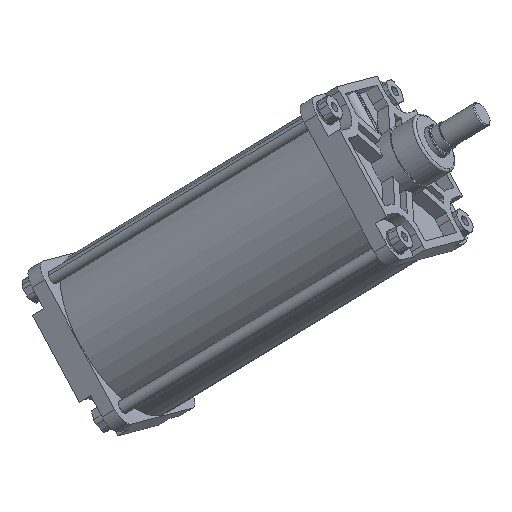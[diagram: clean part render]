
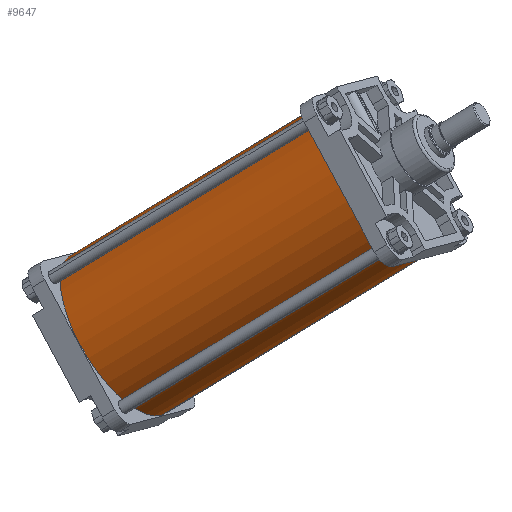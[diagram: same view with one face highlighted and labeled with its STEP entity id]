
A CAD part, top view. The second image highlights one B-rep face of the part: STEP entity #9647.
In plain terms, the highlighted cylindrical face has radius 168 mm (diameter 336 mm), a partial arc.
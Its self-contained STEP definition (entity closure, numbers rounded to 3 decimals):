
#8886=CARTESIAN_POINT('Vertex',(0.,168.,0.)) ;
#8888=CARTESIAN_POINT('Vertex',(0.,-168.,0.)) ;
#8891=CARTESIAN_POINT('Axis2P3D Location',(0.,0.,0.)) ;
#9605=CARTESIAN_POINT('Axis2P3D Location',(-303.,0.,0.)) ;
#9610=CARTESIAN_POINT('Line Origine',(-303.,168.,0.)) ;
#9614=CARTESIAN_POINT('Vertex',(-606.,168.,0.)) ;
#9617=CARTESIAN_POINT('Line Origine',(-303.,-168.,0.)) ;
#9621=CARTESIAN_POINT('Vertex',(-606.,-168.,0.)) ;
#9636=CARTESIAN_POINT('Axis2P3D Location',(-606.,0.,0.)) ;
#8892=DIRECTION('Axis2P3D Direction',(1.,0.,0.)) ;
#9606=DIRECTION('Axis2P3D Direction',(-1.,-0.,0.)) ;
#9607=DIRECTION('Axis2P3D XDirection',(0.,-1.,0.)) ;
#9611=DIRECTION('Vector Direction',(-1.,0.,0.)) ;
#9618=DIRECTION('Vector Direction',(-1.,0.,0.)) ;
#9637=DIRECTION('Axis2P3D Direction',(-1.,-0.,0.)) ;
#8893=AXIS2_PLACEMENT_3D('Circle Axis2P3D',#8891,#8892,$) ;
#9608=AXIS2_PLACEMENT_3D('Cylinder Axis2P3D',#9605,#9606,#9607) ;
#9638=AXIS2_PLACEMENT_3D('Circle Axis2P3D',#9636,#9637,$) ;
#9642=ORIENTED_EDGE('',*,*,#9623,.F.) ;
#9643=ORIENTED_EDGE('',*,*,#8895,.T.) ;
#9644=ORIENTED_EDGE('',*,*,#9616,.T.) ;
#9645=ORIENTED_EDGE('',*,*,#9640,.F.) ;
#9612=VECTOR('Line Direction',#9611,1.) ;
#9619=VECTOR('Line Direction',#9618,1.) ;
#9647=ADVANCED_FACE('PartBody',(#9646),#9609,.T.) ;
#8894=CIRCLE('generated circle',#8893,168.) ;
#9639=CIRCLE('generated circle',#9638,168.) ;
#9609=CYLINDRICAL_SURFACE('generated cylinder',#9608,168.) ;
#8895=EDGE_CURVE('',#8889,#8887,#8894,.F.) ;
#9616=EDGE_CURVE('',#8887,#9615,#9613,.T.) ;
#9623=EDGE_CURVE('',#8889,#9622,#9620,.T.) ;
#9640=EDGE_CURVE('',#9622,#9615,#9639,.T.) ;
#9641=EDGE_LOOP('',(#9642,#9643,#9644,#9645)) ;
#9646=FACE_OUTER_BOUND('',#9641,.T.) ;
#9613=LINE('Line',#9610,#9612) ;
#9620=LINE('Line',#9617,#9619) ;
#8887=VERTEX_POINT('',#8886) ;
#8889=VERTEX_POINT('',#8888) ;
#9615=VERTEX_POINT('',#9614) ;
#9622=VERTEX_POINT('',#9621) ;
